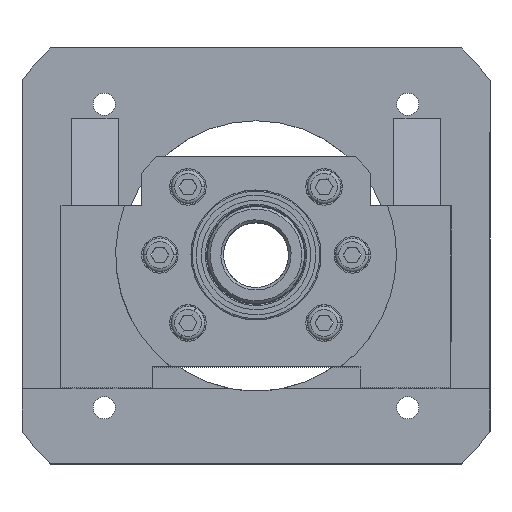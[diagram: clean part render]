
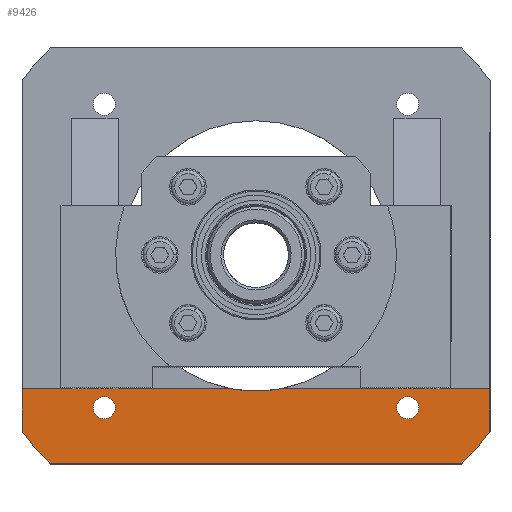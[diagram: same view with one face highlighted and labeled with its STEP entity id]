
A CAD part, top view. The second image highlights one B-rep face of the part: STEP entity #9426.
In plain terms, the highlighted planar face has unit normal (0, 0, 1).
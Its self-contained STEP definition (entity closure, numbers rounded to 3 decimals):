
#57 = EDGE_CURVE ( 'NONE', #1725, #5388, #8650, .T. ) ;
#177 = ORIENTED_EDGE ( 'NONE', *, *, #57, .F. ) ;
#385 = CARTESIAN_POINT ( 'NONE',  ( 79.096, -80., 21. ) ) ;
#390 = ORIENTED_EDGE ( 'NONE', *, *, #6784, .T. ) ;
#470 = FACE_OUTER_BOUND ( 'NONE', #2563, .T. ) ;
#481 = ORIENTED_EDGE ( 'NONE', *, *, #6281, .F. ) ;
#941 = EDGE_LOOP ( 'NONE', ( #6992, #3198 ) ) ;
#1191 = CARTESIAN_POINT ( 'NONE',  ( 90., 80., 21. ) ) ;
#1265 = DIRECTION ( 'NONE',  ( 1., 0., 0. ) ) ;
#1367 = VERTEX_POINT ( 'NONE', #4014 ) ;
#1581 = CARTESIAN_POINT ( 'NONE',  ( -104.626, -51., 21. ) ) ;
#1591 = CARTESIAN_POINT ( 'NONE',  ( 58.336, -58.336, 21. ) ) ;
#1600 = ORIENTED_EDGE ( 'NONE', *, *, #8677, .T. ) ;
#1656 = VECTOR ( 'NONE', #7491, 1000. ) ;
#1721 = EDGE_CURVE ( 'NONE', #3324, #8523, #5038, .T. ) ;
#1725 = VERTEX_POINT ( 'NONE', #11045 ) ;
#1934 = CARTESIAN_POINT ( 'NONE',  ( -58.336, -58.336, 21. ) ) ;
#1939 = LINE ( 'NONE', #6620, #1656 ) ;
#1972 = AXIS2_PLACEMENT_3D ( 'NONE', #8854, #3737, #9727 ) ;
#2127 = EDGE_CURVE ( 'NONE', #4956, #1367, #10398, .T. ) ;
#2460 = DIRECTION ( 'NONE',  ( 1., 0., 0. ) ) ;
#2519 = VERTEX_POINT ( 'NONE', #8019 ) ;
#2563 = EDGE_LOOP ( 'NONE', ( #8929, #9511, #1600, #390, #10287, #10055, #8292, #481 ) ) ;
#2627 = DIRECTION ( 'NONE',  ( 0., 0., -1. ) ) ;
#2695 = CARTESIAN_POINT ( 'NONE',  ( -54.086, -58.336, 21. ) ) ;
#2714 = CIRCLE ( 'NONE', #9831, 4.25 ) ;
#2787 = DIRECTION ( 'NONE',  ( 1., 0., 0. ) ) ;
#3148 = CARTESIAN_POINT ( 'NONE',  ( -90., -80., 21. ) ) ;
#3175 = EDGE_CURVE ( 'NONE', #5388, #1725, #2714, .T. ) ;
#3198 = ORIENTED_EDGE ( 'NONE', *, *, #2127, .F. ) ;
#3324 = VERTEX_POINT ( 'NONE', #5546 ) ;
#3333 = VERTEX_POINT ( 'NONE', #385 ) ;
#3369 = CARTESIAN_POINT ( 'NONE',  ( 0., 0., 21. ) ) ;
#3409 = EDGE_LOOP ( 'NONE', ( #177, #5224 ) ) ;
#3599 = EDGE_CURVE ( 'NONE', #2519, #3324, #5239, .T. ) ;
#3730 = AXIS2_PLACEMENT_3D ( 'NONE', #4350, #10340, #5198 ) ;
#3737 = DIRECTION ( 'NONE',  ( 0., 0., 1. ) ) ;
#3786 = EDGE_CURVE ( 'NONE', #10706, #4896, #8178, .T. ) ;
#4014 = CARTESIAN_POINT ( 'NONE',  ( 54.086, -58.336, 21. ) ) ;
#4177 = CIRCLE ( 'NONE', #1972, 112.5 ) ;
#4222 = DIRECTION ( 'NONE',  ( 1., 0., 0. ) ) ;
#4350 = CARTESIAN_POINT ( 'NONE',  ( 58.336, -58.336, 21. ) ) ;
#4358 = VECTOR ( 'NONE', #9138, 1000. ) ;
#4846 = AXIS2_PLACEMENT_3D ( 'NONE', #9781, #5521, #1265 ) ;
#4865 = EDGE_CURVE ( 'NONE', #5526, #4896, #10691, .T. ) ;
#4896 = VERTEX_POINT ( 'NONE', #11014 ) ;
#4933 = DIRECTION ( 'NONE',  ( 1., 0., 0. ) ) ;
#4956 = VERTEX_POINT ( 'NONE', #7678 ) ;
#5005 = FACE_BOUND ( 'NONE', #3409, .T. ) ;
#5038 = CIRCLE ( 'NONE', #8162, 112.5 ) ;
#5049 = CARTESIAN_POINT ( 'NONE',  ( -10.149, -51., 21. ) ) ;
#5198 = DIRECTION ( 'NONE',  ( 1., 0., 0. ) ) ;
#5224 = ORIENTED_EDGE ( 'NONE', *, *, #3175, .F. ) ;
#5239 = LINE ( 'NONE', #10314, #10052 ) ;
#5388 = VERTEX_POINT ( 'NONE', #2695 ) ;
#5428 = CARTESIAN_POINT ( 'NONE',  ( 10.149, -51., 21. ) ) ;
#5521 = DIRECTION ( 'NONE',  ( 0., 0., 1. ) ) ;
#5526 = VERTEX_POINT ( 'NONE', #5428 ) ;
#5546 = CARTESIAN_POINT ( 'NONE',  ( -90., -67.5, 21. ) ) ;
#5805 = EDGE_CURVE ( 'NONE', #1367, #4956, #10513, .T. ) ;
#5896 = VECTOR ( 'NONE', #8888, 1000. ) ;
#5998 = DIRECTION ( 'NONE',  ( 0., -1., 0. ) ) ;
#6281 = EDGE_CURVE ( 'NONE', #2519, #8738, #1939, .T. ) ;
#6620 = CARTESIAN_POINT ( 'NONE',  ( -104.626, -51., 21. ) ) ;
#6784 = EDGE_CURVE ( 'NONE', #3333, #10706, #4177, .T. ) ;
#6992 = ORIENTED_EDGE ( 'NONE', *, *, #5805, .F. ) ;
#7281 = FACE_BOUND ( 'NONE', #941, .T. ) ;
#7491 = DIRECTION ( 'NONE',  ( 1., 0., 0. ) ) ;
#7564 = CIRCLE ( 'NONE', #9787, 52. ) ;
#7582 = DIRECTION ( 'NONE',  ( 0., 0., 1. ) ) ;
#7678 = CARTESIAN_POINT ( 'NONE',  ( 62.586, -58.336, 21. ) ) ;
#7740 = CARTESIAN_POINT ( 'NONE',  ( 0., 0., 21. ) ) ;
#7907 = DIRECTION ( 'NONE',  ( 0., 0., 1. ) ) ;
#8019 = CARTESIAN_POINT ( 'NONE',  ( -90., -51., 21. ) ) ;
#8098 = AXIS2_PLACEMENT_3D ( 'NONE', #9207, #10025, #4933 ) ;
#8162 = AXIS2_PLACEMENT_3D ( 'NONE', #3369, #9344, #4222 ) ;
#8178 = LINE ( 'NONE', #1191, #5896 ) ;
#8292 = ORIENTED_EDGE ( 'NONE', *, *, #8810, .T. ) ;
#8523 = VERTEX_POINT ( 'NONE', #8881 ) ;
#8615 = DIRECTION ( 'NONE',  ( 1., 0., 0. ) ) ;
#8650 = CIRCLE ( 'NONE', #4846, 4.25 ) ;
#8677 = EDGE_CURVE ( 'NONE', #8523, #3333, #8913, .T. ) ;
#8738 = VERTEX_POINT ( 'NONE', #5049 ) ;
#8810 = EDGE_CURVE ( 'NONE', #5526, #8738, #7564, .T. ) ;
#8841 = AXIS2_PLACEMENT_3D ( 'NONE', #1591, #7582, #2460 ) ;
#8854 = CARTESIAN_POINT ( 'NONE',  ( 0., 0., 21. ) ) ;
#8881 = CARTESIAN_POINT ( 'NONE',  ( -79.096, -80., 21. ) ) ;
#8888 = DIRECTION ( 'NONE',  ( 0., 1., 0. ) ) ;
#8913 = LINE ( 'NONE', #3148, #4358 ) ;
#8929 = ORIENTED_EDGE ( 'NONE', *, *, #3599, .T. ) ;
#9138 = DIRECTION ( 'NONE',  ( 1., 0., 0. ) ) ;
#9207 = CARTESIAN_POINT ( 'NONE',  ( -104.626, -111., 21. ) ) ;
#9344 = DIRECTION ( 'NONE',  ( 0., 0., 1. ) ) ;
#9426 = ADVANCED_FACE ( 'NONE', ( #7281, #5005, #470 ), #10069, .T. ) ;
#9511 = ORIENTED_EDGE ( 'NONE', *, *, #1721, .T. ) ;
#9727 = DIRECTION ( 'NONE',  ( 1., 0., 0. ) ) ;
#9781 = CARTESIAN_POINT ( 'NONE',  ( -58.336, -58.336, 21. ) ) ;
#9787 = AXIS2_PLACEMENT_3D ( 'NONE', #7740, #2627, #8615 ) ;
#9831 = AXIS2_PLACEMENT_3D ( 'NONE', #1934, #7907, #2787 ) ;
#10025 = DIRECTION ( 'NONE',  ( 0., 0., 1. ) ) ;
#10052 = VECTOR ( 'NONE', #5998, 1000. ) ;
#10055 = ORIENTED_EDGE ( 'NONE', *, *, #4865, .F. ) ;
#10069 = PLANE ( 'NONE',  #8098 ) ;
#10109 = DIRECTION ( 'NONE',  ( 1., 0., 0. ) ) ;
#10287 = ORIENTED_EDGE ( 'NONE', *, *, #3786, .T. ) ;
#10314 = CARTESIAN_POINT ( 'NONE',  ( -90., 80., 21. ) ) ;
#10340 = DIRECTION ( 'NONE',  ( 0., 0., 1. ) ) ;
#10398 = CIRCLE ( 'NONE', #3730, 4.25 ) ;
#10513 = CIRCLE ( 'NONE', #8841, 4.25 ) ;
#10691 = LINE ( 'NONE', #1581, #10959 ) ;
#10706 = VERTEX_POINT ( 'NONE', #10803 ) ;
#10803 = CARTESIAN_POINT ( 'NONE',  ( 90., -67.5, 21. ) ) ;
#10959 = VECTOR ( 'NONE', #10109, 1000. ) ;
#11014 = CARTESIAN_POINT ( 'NONE',  ( 90., -51., 21. ) ) ;
#11045 = CARTESIAN_POINT ( 'NONE',  ( -62.586, -58.336, 21. ) ) ;
